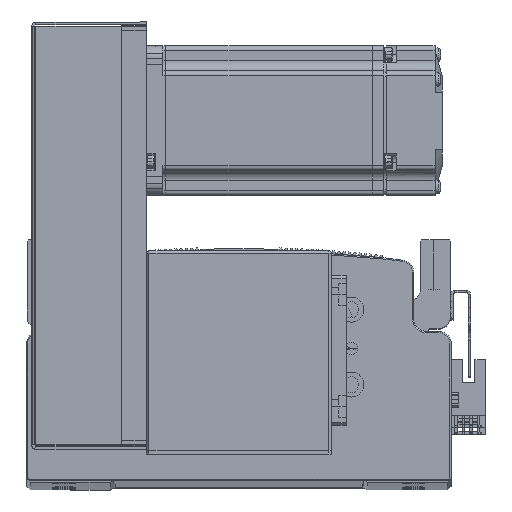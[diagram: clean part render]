
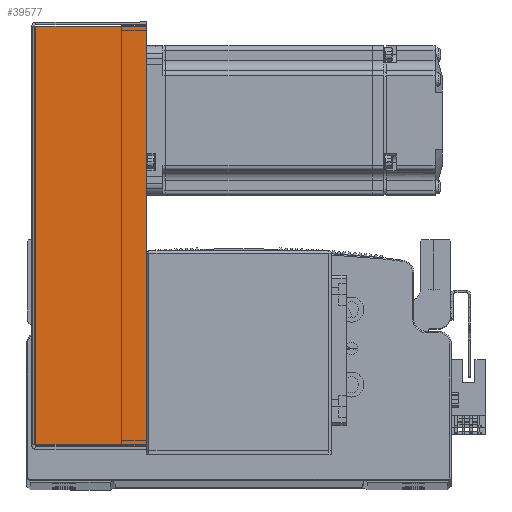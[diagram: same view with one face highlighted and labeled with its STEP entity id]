
A CAD part, top view. The second image highlights one B-rep face of the part: STEP entity #39577.
In plain terms, the highlighted planar face has unit normal (0, 0, 1) as drawn and (0, 0, -1) by its records, which use the part's own axes.
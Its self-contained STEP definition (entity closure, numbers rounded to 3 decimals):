
#7978 = EDGE_CURVE ( 'NONE', #18840, #18841, #52761, .T. ) ;
#7986 = EDGE_CURVE ( 'NONE', #18879, #18841, #52896, .T. ) ;
#8025 = EDGE_CURVE ( 'NONE', #18869, #18879, #52902, .T. ) ;
#8031 = EDGE_CURVE ( 'NONE', #18869, #18840, #52899, .T. ) ;
#17874 = CARTESIAN_POINT ( 'NONE',  ( 83.793, 45., -40.5 ) ) ;
#17905 = CARTESIAN_POINT ( 'NONE',  ( 83.793, 0.737, -40.5 ) ) ;
#17944 = CARTESIAN_POINT ( 'NONE',  ( -83.793, 0.737, -40.5 ) ) ;
#17960 = CARTESIAN_POINT ( 'NONE',  ( -83.793, 45., -40.5 ) ) ;
#18840 = VERTEX_POINT ( 'NONE', #17905 ) ;
#18841 = VERTEX_POINT ( 'NONE', #17874 ) ;
#18869 = VERTEX_POINT ( 'NONE', #17944 ) ;
#18879 = VERTEX_POINT ( 'NONE', #17960 ) ;
#33283 = EDGE_LOOP ( 'NONE', ( #40377, #40327, #40385, #40335 ) ) ;
#39577 = ADVANCED_FACE ( 'NONE', ( #57788 ), #56869, .F. ) ;
#40327 = ORIENTED_EDGE ( 'NONE', *, *, #8025, .T. ) ;
#40335 = ORIENTED_EDGE ( 'NONE', *, *, #7978, .F. ) ;
#40377 = ORIENTED_EDGE ( 'NONE', *, *, #8031, .F. ) ;
#40385 = ORIENTED_EDGE ( 'NONE', *, *, #7986, .T. ) ;
#46014 = DIRECTION ( 'NONE',  ( 0., 1., 0. ) ) ;
#46043 = CARTESIAN_POINT ( 'NONE',  ( 83.793, 0., -40.5 ) ) ;
#46066 = DIRECTION ( 'NONE',  ( 1., 0., 0. ) ) ;
#46070 = CARTESIAN_POINT ( 'NONE',  ( 84.5, 45., -40.5 ) ) ;
#46108 = DIRECTION ( 'NONE',  ( 0., 1., 0. ) ) ;
#46109 = CARTESIAN_POINT ( 'NONE',  ( -83.793, 0., -40.5 ) ) ;
#46110 = CARTESIAN_POINT ( 'NONE',  ( 0., 0.737, -40.5 ) ) ;
#46129 = DIRECTION ( 'NONE',  ( 1., 0., 0. ) ) ;
#50150 = AXIS2_PLACEMENT_3D ( 'NONE', #56899, #56861, #56906 ) ;
#52761 = LINE ( 'NONE', #46043, #52859 ) ;
#52810 = VECTOR ( 'NONE', #46108, 1000. ) ;
#52821 = VECTOR ( 'NONE', #46066, 1000. ) ;
#52842 = VECTOR ( 'NONE', #46129, 1000. ) ;
#52859 = VECTOR ( 'NONE', #46014, 1000. ) ;
#52896 = LINE ( 'NONE', #46070, #52821 ) ;
#52899 = LINE ( 'NONE', #46110, #52842 ) ;
#52902 = LINE ( 'NONE', #46109, #52810 ) ;
#56861 = DIRECTION ( 'NONE',  ( 0., 0., 1. ) ) ;
#56869 = PLANE ( 'NONE',  #50150 ) ;
#56899 = CARTESIAN_POINT ( 'NONE',  ( 0., 0., -40.5 ) ) ;
#56906 = DIRECTION ( 'NONE',  ( 0., -1., 0. ) ) ;
#57788 = FACE_OUTER_BOUND ( 'NONE', #33283, .T. ) ;
